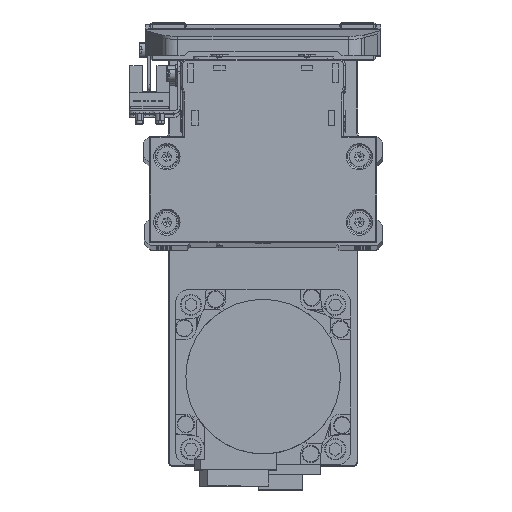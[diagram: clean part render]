
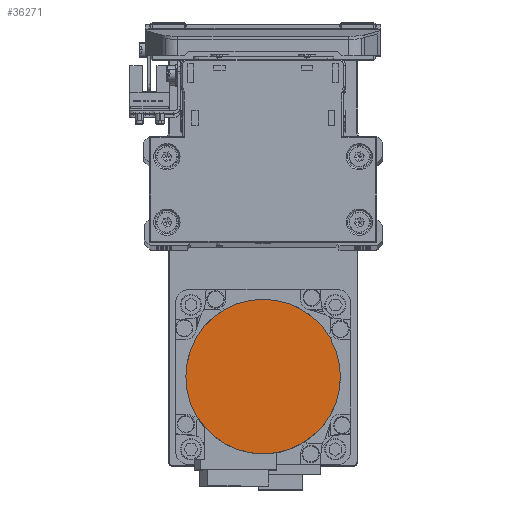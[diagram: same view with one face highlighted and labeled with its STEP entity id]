
A CAD part, top view. The second image highlights one B-rep face of the part: STEP entity #36271.
In plain terms, the highlighted planar face has unit normal (0, 0, 1) as drawn and (0, 0, -1) by its records, which use the part's own axes.
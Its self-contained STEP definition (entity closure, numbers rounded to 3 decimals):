
#2044 = DIRECTION ( 'NONE',  ( 0., 0., 1. ) ) ;
#2481 = AXIS2_PLACEMENT_3D ( 'NONE', #8826, #21529, #34221 ) ;
#3511 = ORIENTED_EDGE ( 'NONE', *, *, #27740, .F. ) ;
#5656 = AXIS2_PLACEMENT_3D ( 'NONE', #30535, #2044, #14742 ) ;
#8621 = DIRECTION ( 'NONE',  ( 0., 0., 1. ) ) ;
#8826 = CARTESIAN_POINT ( 'NONE',  ( 0., 0., -109.7 ) ) ;
#9816 = ORIENTED_EDGE ( 'NONE', *, *, #19645, .F. ) ;
#11768 = FACE_OUTER_BOUND ( 'NONE', #32260, .T. ) ;
#14742 = DIRECTION ( 'NONE',  ( -1., 0., 0. ) ) ;
#18121 = AXIS2_PLACEMENT_3D ( 'NONE', #37149, #8621, #21325 ) ;
#19645 = EDGE_CURVE ( 'NONE', #32426, #39282, #23606, .T. ) ;
#19720 = CARTESIAN_POINT ( 'NONE',  ( -26.5, 0., -109.7 ) ) ;
#20428 = CIRCLE ( 'NONE', #2481, 26.5 ) ;
#21325 = DIRECTION ( 'NONE',  ( 1., 0., 0. ) ) ;
#21529 = DIRECTION ( 'NONE',  ( 0., 0., 1. ) ) ;
#23606 = CIRCLE ( 'NONE', #5656, 26.5 ) ;
#24442 = PLANE ( 'NONE',  #18121 ) ;
#26521 = CARTESIAN_POINT ( 'NONE',  ( 26.5, 0., -109.7 ) ) ;
#27740 = EDGE_CURVE ( 'NONE', #39282, #32426, #20428, .T. ) ;
#30535 = CARTESIAN_POINT ( 'NONE',  ( 0., 0., -109.7 ) ) ;
#32260 = EDGE_LOOP ( 'NONE', ( #9816, #3511 ) ) ;
#32426 = VERTEX_POINT ( 'NONE', #19720 ) ;
#34221 = DIRECTION ( 'NONE',  ( 1., 0., 0. ) ) ;
#36271 = ADVANCED_FACE ( 'NONE', ( #11768 ), #24442, .F. ) ;
#37149 = CARTESIAN_POINT ( 'NONE',  ( 0., 0., -109.7 ) ) ;
#39282 = VERTEX_POINT ( 'NONE', #26521 ) ;
